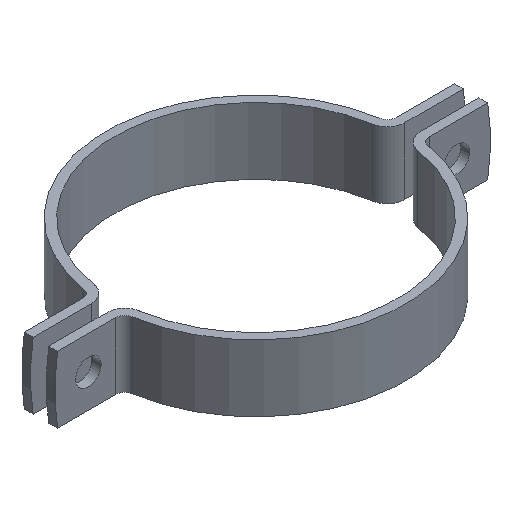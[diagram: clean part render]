
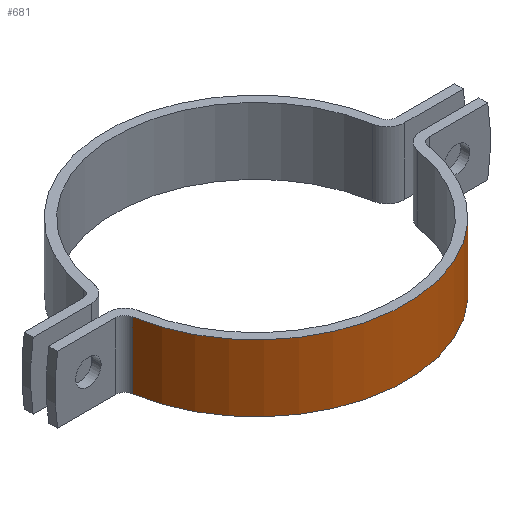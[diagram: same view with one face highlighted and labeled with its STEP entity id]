
A CAD part, isometric view. The second image highlights one B-rep face of the part: STEP entity #681.
In plain terms, the highlighted cylindrical face has radius 135 mm (diameter 270 mm), a partial arc.
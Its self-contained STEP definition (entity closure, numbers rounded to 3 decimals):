
#106 = DIRECTION ( 'NONE',  ( 0., 0., 1. ) ) ;
#129 = DIRECTION ( 'NONE',  ( 0., 0., 1. ) ) ;
#165 = AXIS2_PLACEMENT_3D ( 'NONE', #1184, #129, #610 ) ;
#185 = VECTOR ( 'NONE', #825, 1000. ) ;
#213 = LINE ( 'NONE', #530, #185 ) ;
#451 = AXIS2_PLACEMENT_3D ( 'NONE', #820, #828, #1091 ) ;
#454 = ORIENTED_EDGE ( 'NONE', *, *, #1175, .T. ) ;
#480 = ORIENTED_EDGE ( 'NONE', *, *, #1018, .T. ) ;
#484 = CARTESIAN_POINT ( 'NONE',  ( -133.242, -21.713, -60. ) ) ;
#530 = CARTESIAN_POINT ( 'NONE',  ( 133.242, -21.713, -60. ) ) ;
#583 = LINE ( 'NONE', #690, #1052 ) ;
#591 = DIRECTION ( 'NONE',  ( 0., 0., 1. ) ) ;
#603 = CIRCLE ( 'NONE', #451, 135. ) ;
#610 = DIRECTION ( 'NONE',  ( 1., 0., 0. ) ) ;
#681 = ADVANCED_FACE ( 'NONE', ( #713 ), #814, .T. ) ;
#690 = CARTESIAN_POINT ( 'NONE',  ( -133.242, -21.713, -60. ) ) ;
#697 = CARTESIAN_POINT ( 'NONE',  ( 0., 0., -60. ) ) ;
#699 = CARTESIAN_POINT ( 'NONE',  ( -133.242, -21.713, 0. ) ) ;
#700 = VERTEX_POINT ( 'NONE', #1220 ) ;
#713 = FACE_OUTER_BOUND ( 'NONE', #1188, .T. ) ;
#714 = CIRCLE ( 'NONE', #165, 135. ) ;
#814 = CYLINDRICAL_SURFACE ( 'NONE', #854, 135. ) ;
#820 = CARTESIAN_POINT ( 'NONE',  ( 0., 0., 0. ) ) ;
#821 = ORIENTED_EDGE ( 'NONE', *, *, #1046, .F. ) ;
#825 = DIRECTION ( 'NONE',  ( 0., 0., 1. ) ) ;
#828 = DIRECTION ( 'NONE',  ( 0., 0., 1. ) ) ;
#854 = AXIS2_PLACEMENT_3D ( 'NONE', #697, #591, #1172 ) ;
#923 = VERTEX_POINT ( 'NONE', #484 ) ;
#955 = VERTEX_POINT ( 'NONE', #1039 ) ;
#1013 = EDGE_CURVE ( 'NONE', #923, #1108, #583, .T. ) ;
#1015 = ORIENTED_EDGE ( 'NONE', *, *, #1013, .F. ) ;
#1018 = EDGE_CURVE ( 'NONE', #700, #955, #213, .T. ) ;
#1039 = CARTESIAN_POINT ( 'NONE',  ( 133.242, -21.713, 0. ) ) ;
#1046 = EDGE_CURVE ( 'NONE', #1108, #955, #603, .T. ) ;
#1052 = VECTOR ( 'NONE', #106, 1000. ) ;
#1091 = DIRECTION ( 'NONE',  ( 1., 0., 0. ) ) ;
#1108 = VERTEX_POINT ( 'NONE', #699 ) ;
#1172 = DIRECTION ( 'NONE',  ( 1., 0., 0. ) ) ;
#1175 = EDGE_CURVE ( 'NONE', #923, #700, #714, .T. ) ;
#1184 = CARTESIAN_POINT ( 'NONE',  ( 0., 0., -60. ) ) ;
#1188 = EDGE_LOOP ( 'NONE', ( #821, #1015, #454, #480 ) ) ;
#1220 = CARTESIAN_POINT ( 'NONE',  ( 133.242, -21.713, -60. ) ) ;
